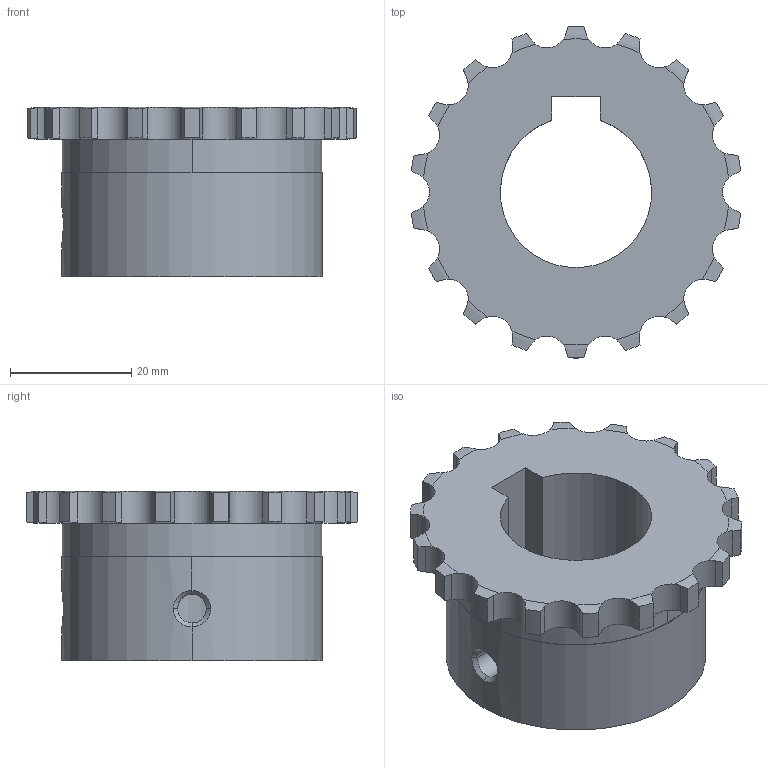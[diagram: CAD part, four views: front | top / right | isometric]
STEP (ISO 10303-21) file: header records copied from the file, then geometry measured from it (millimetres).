
FILE_DESCRIPTION((''),'2;1');
FILE_NAME('510-101-2518_PRT','2021-02-13T',('Brieden'),('Brieden'),'PRO/ENGINEER BY PARAMETRIC TECHNOLOGY CORPORATION, 2010160','PRO/ENGINEER BY PARAMETRIC TECHNOLOGY CORPORATION, 2010160','');
FILE_SCHEMA(('AUTOMOTIVE_DESIGN { 1 0 10303 214 1 1 1 1 }'));
Length unit declared in the file: millimetre
Products named in the file (1): 510-101-2518_PRT
Bounding box: 54.4 x 54.84 x 28 mm (x, y, z)
Volume: 29090.8 mm3; surface area: 9897.9 mm2
Topology: 1 solids, 1 shells, 130 faces, 375 edges, 248 vertices
Faces by surface type: cylinder 81, torus 36, plane 7, bspline 6
Entity records: 6360 total; most frequent: CARTESIAN_POINT 1952, ORIENTED_EDGE 750, DIRECTION 585, PRESENTATION_STYLE_ASSIGNMENT 376, STYLED_ITEM 376, CURVE_STYLE 375, EDGE_CURVE 375, VERTEX_POINT 248
